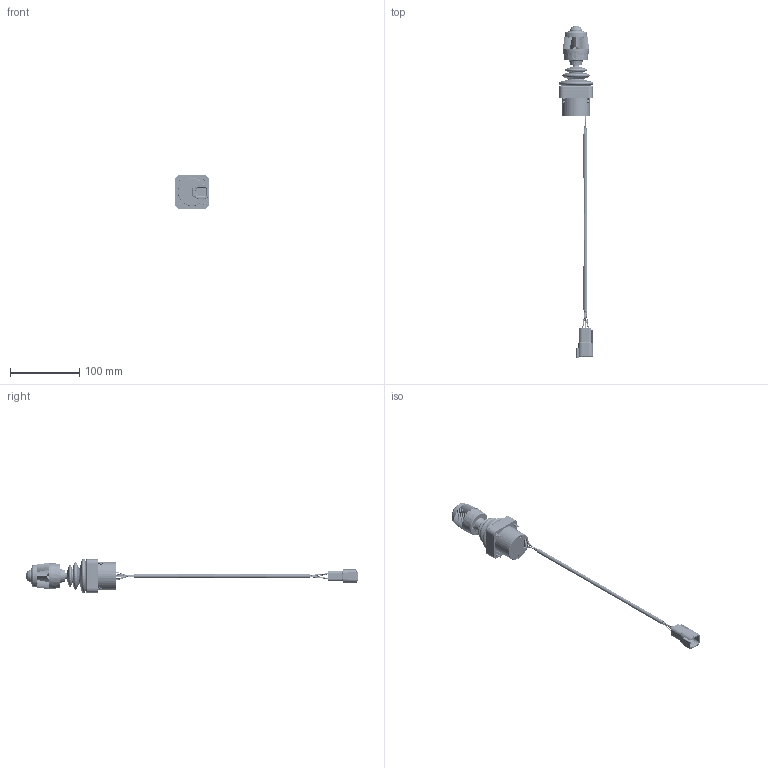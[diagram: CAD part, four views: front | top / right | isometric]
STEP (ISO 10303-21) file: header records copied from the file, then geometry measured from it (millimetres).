
FILE_DESCRIPTION (( 'STEP AP203' ), '1' );
FILE_NAME ('TRY120_X51CX71.STEP', '2024-02-13T17:08:27', ( '' ), ( '' ), 'SwSTEP 2.0', 'SolidWorks 2022', '' );
FILE_SCHEMA (( 'CONFIG_CONTROL_DESIGN' ));
Length unit declared in the file: millimetre
Products named in the file (1): TRY120_X51CX71
Bounding box: 50.13 x 478.97 x 50.13 mm (x, y, z)
Volume: 74837.7 mm3; surface area: 96870.1 mm2
Topology: 45 solids, 45 shells, 3963 faces, 10877 edges, 7102 vertices
Faces by surface type: cylinder 1621, plane 1410, bspline 466, cone 284, torus 165, sphere 17
Entity records: 222666 total; most frequent: CARTESIAN_POINT 130121, ORIENTED_EDGE 21676, DIRECTION 16645, EDGE_CURVE 10838, VERTEX_POINT 7101, AXIS2_PLACEMENT_3D 5904, VECTOR 4837, LINE 4837
